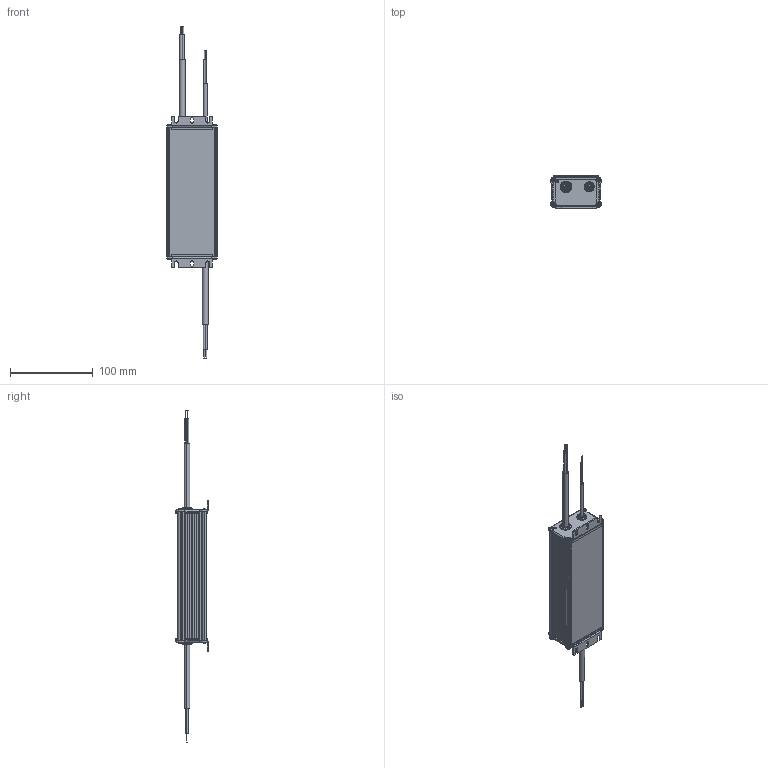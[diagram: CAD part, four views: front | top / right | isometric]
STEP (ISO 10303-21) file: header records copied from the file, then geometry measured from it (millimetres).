
FILE_DESCRIPTION (( 'STEP AP214' ), '1' );
FILE_NAME ('D30063685_150W.STEP', '2021-07-28T06:35:39', ( '' ), ( '' ), 'SwSTEP 2.0', 'SolidWorks 2020', '' );
FILE_SCHEMA (( 'AUTOMOTIVE_DESIGN' ));
Length unit declared in the file: millimetre
Products named in the file (1): D30063685_150W
Bounding box: 61.3 x 39.4 x 402 mm (x, y, z)
Volume: 330912.5 mm3; surface area: 75075.8 mm2
Topology: 34 solids, 34 shells, 892 faces, 2277 edges, 1458 vertices
Faces by surface type: plane 421, cylinder 379, bspline 84, cone 8
Entity records: 38405 total; most frequent: CARTESIAN_POINT 7294, DIRECTION 4635, ORIENTED_EDGE 4514, EDGE_CURVE 2257, AXIS2_PLACEMENT_3D 1683, VERTEX_POINT 1458, LINE 1269, VECTOR 1269
